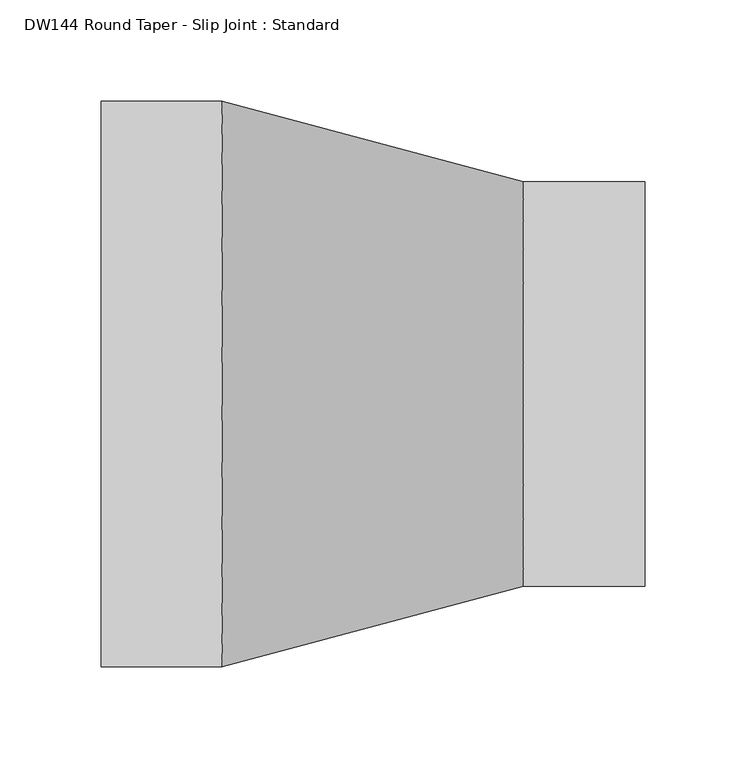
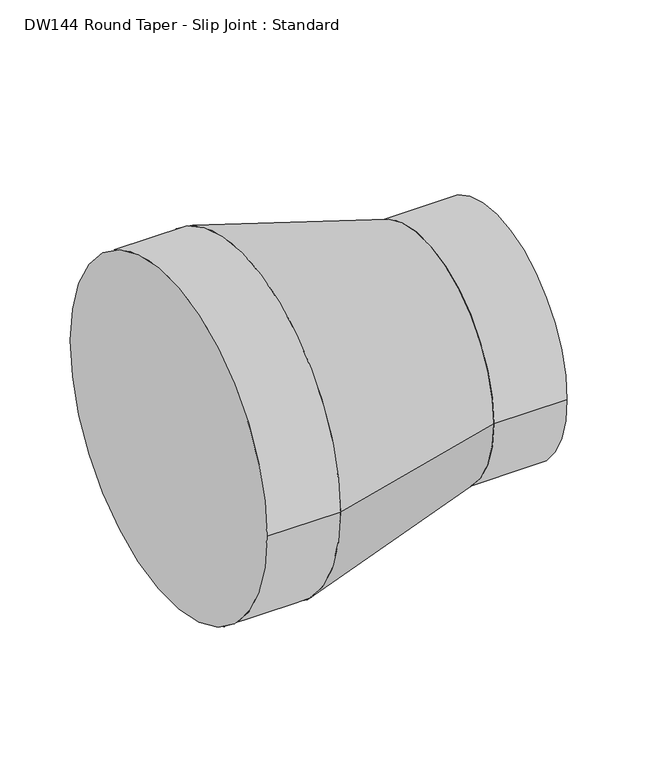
"""IFC4 building model written with IfcOpenShell, lengths in millimetres: duct fitting geometry, DW144 Round Taper - Slip Joint : Standard."""

from ifc_helpers import new_model, si_unit, point, frame, origin, origin_2d, place, context, project, spatial, polyline, circle_curve, trimmed, segment, composite_curve, outline, extrude, source, transform, mapped, element, save
from ifc_brep_helpers import plane_surface, revolved_surface, advanced_brep


def dw144_round_taper_slip_joint_standard_30fd21f4(model_context):
    return source(origin(), model_context, "Body", "SolidModel", [
        extrude(outline(composite_curve([segment(trimmed(circle_curve(origin_2d(), 100.0), [point((-100.0, 0.0))], [point((100.0, 0.0))], False, "CARTESIAN"), True, "CONTINUOUS"), segment(trimmed(circle_curve(origin_2d(), 100.0), [point((100.0, 0.0))], [point((-100.0, 0.0))], False, "CARTESIAN"), True, "CONTINUOUS")], self_intersect=False)), frame((209.2820323, 0.0, 0.0), z_axis=(1.0, 0.0, 0.0), x_axis=(0.0, 1.0, 0.0)), (0.0, 0.0, 1.0), 60.0),
        extrude(outline(composite_curve([segment(trimmed(circle_curve(origin_2d(), 140.0), [point((-140.0, 0.0))], [point((140.0, 0.0))], False, "CARTESIAN"), True, "CONTINUOUS"), segment(trimmed(circle_curve(origin_2d(), 140.0), [point((140.0, 0.0))], [point((-140.0, 0.0))], False, "CARTESIAN"), True, "CONTINUOUS")], self_intersect=False)), frame((0.0, 0.0, 0.0), z_axis=(1.0, 0.0, 0.0), x_axis=(0.0, 1.0, 0.0)), (0.0, 0.0, 1.0), 60.0),
        advanced_brep(
        [(209.2820323, -100.0, 0.0), (209.2820323, 100.0, 0.0), (60.0, -140.0, 0.0), (60.0, 140.0, 0.0)],
        [
            (0, 1, circle_curve(frame((209.2820323, 0.0, 0.0), z_axis=(1.0, 0.0, 0.0), x_axis=(0.0, -1.0, 0.0)), 100.0)),
            (1, 0, circle_curve(frame((209.2820323, 0.0, 0.0), z_axis=(1.0, 0.0, 0.0), x_axis=(0.0, 1.0, 0.0)), 100.0)),
            (2, 3, circle_curve(frame((60.0, 0.0, 0.0), z_axis=(-1.0, 0.0, 0.0), x_axis=(0.0, 1.0, 0.0)), 140.0)),
            (3, 2, circle_curve(frame((60.0, 0.0, 0.0), z_axis=(-1.0, 0.0, 0.0), x_axis=(0.0, -1.0, 0.0)), 140.0)),
            (3, 1),
            (0, 2),
        ],
        [
            plane_surface(frame((209.2820323, 0.0, 0.0), z_axis=(1.0, 0.0, 0.0), x_axis=(0.0, 0.0, -1.0))),
            plane_surface(frame((60.0, 0.0, 0.0), z_axis=(-1.0, 0.0, 0.0), x_axis=(0.0, 0.0, -1.0))),
            revolved_surface(polyline([(209.28203229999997, -100.00000000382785, 0.0), (60.0, -140.0, 0.0)]), (582.4871131, 0.0, 0.0), (-1.0, 0.0, 0.0)),
            revolved_surface(polyline([(209.28203229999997, 100.00000000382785, 0.0), (60.0, 140.0, 0.0)]), (582.4871131, 0.0, 0.0), (-1.0, 0.0, 0.0)),
        ],
        [
            (0, [[1, 2]]),
            (1, [[3, 4]]),
            (2, [[-4, 5, -1, 6]]),
            (3, [[-3, -6, -2, -5]]),
        ],
    ),
    ])


if __name__ == "__main__":
    model = new_model("IFC4")
    model_context = context("Model", 3, world=origin())
    ifc_project = project(units=[si_unit("LENGTHUNIT", "METRE", prefix="MILLI")], contexts=[model_context])
    site = spatial("IfcSite", under=ifc_project)
    building = spatial("IfcBuilding", under=site)
    placement = place(None, origin())
    dw144_round_taper_slip_joint_standard_shape = dw144_round_taper_slip_joint_standard_30fd21f4(model_context)
    element("IfcDuctFitting", 1, ObjectType="DW144 Round Taper - Slip Joint : Standard", at=placement, inside=building, context=model_context, shape_type="MappedRepresentation", body=[
        mapped(dw144_round_taper_slip_joint_standard_shape, transform((0.0, 0.0, 0.0), x_axis=(1.0, 0.0, 0.0), y_axis=(0.0, 1.0, 0.0), z_axis=(0.0, 0.0, 1.0))),
    ])
    save(model, "model.ifc")
